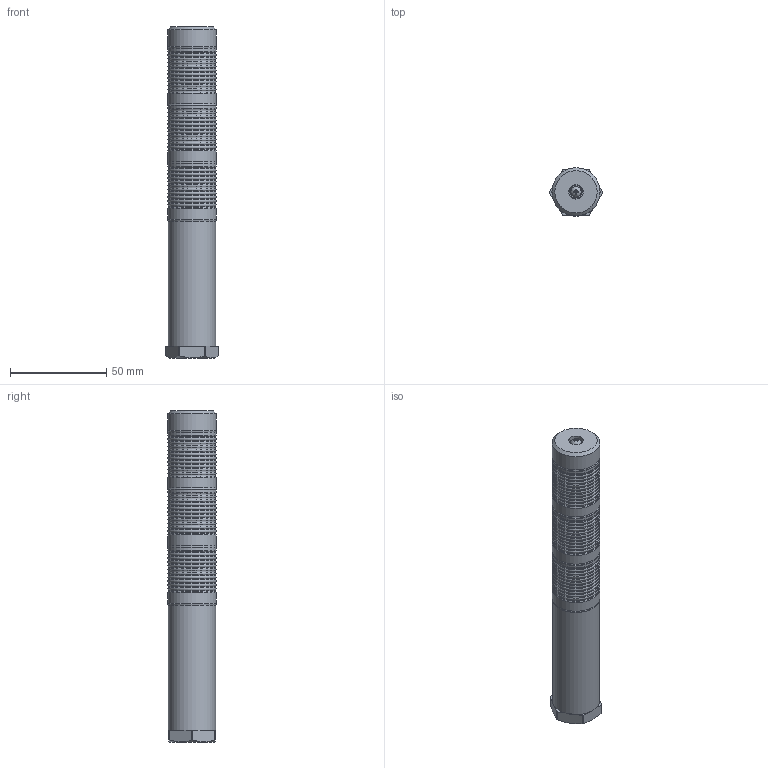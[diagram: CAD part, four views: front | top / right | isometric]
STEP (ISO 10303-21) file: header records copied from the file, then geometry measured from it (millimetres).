
FILE_DESCRIPTION(('STEP AP214'), '1');
FILE_NAME('TL25-024-RYG', '', ('UNSPECIFIED'), ('UNSPECIFIED'), 'C3D Converter', 'C3D Toolkit', '');
FILE_SCHEMA(('AUTOMOTIVE_DESIGN { 1 0 10303 214 3 1 1}'));
Length unit declared in the file: millimetre
Products named in the file (10): -02; -01
Assembly tree (12 placements, depth 2):
  (unnamed)
    (unnamed)
    (unnamed)
    (unnamed)  x4
    -02
    -01
    (unnamed)
    (unnamed)
    (unnamed)
    (unnamed)
Bounding box: 27.3 x 25 x 172.72 mm (x, y, z)
Volume: 60077.1 mm3; surface area: 26738 mm2
Topology: 12 solids, 12 shells, 145 faces, 299 edges, 173 vertices
Faces by surface type: torus 73, plane 45, cylinder 23, cone 3, sphere 1
Full cylindrical faces by diameter (mm): 2 x1, 3 x2, 5.5 x1, 6.5 x1, 7.5 x1, 16 x1, 20 x1, 20.752 x1, 24.5 x1, 25 x7
Entity records: 4696 total; most frequent: CARTESIAN_POINT 813, DIRECTION 642, ORIENTED_EDGE 402, AXIS2_PLACEMENT_3D 292, EDGE_LOOP 242, EDGE_CURVE 201, FACE_OUTER_BOUND 178, VERTEX_POINT 169
